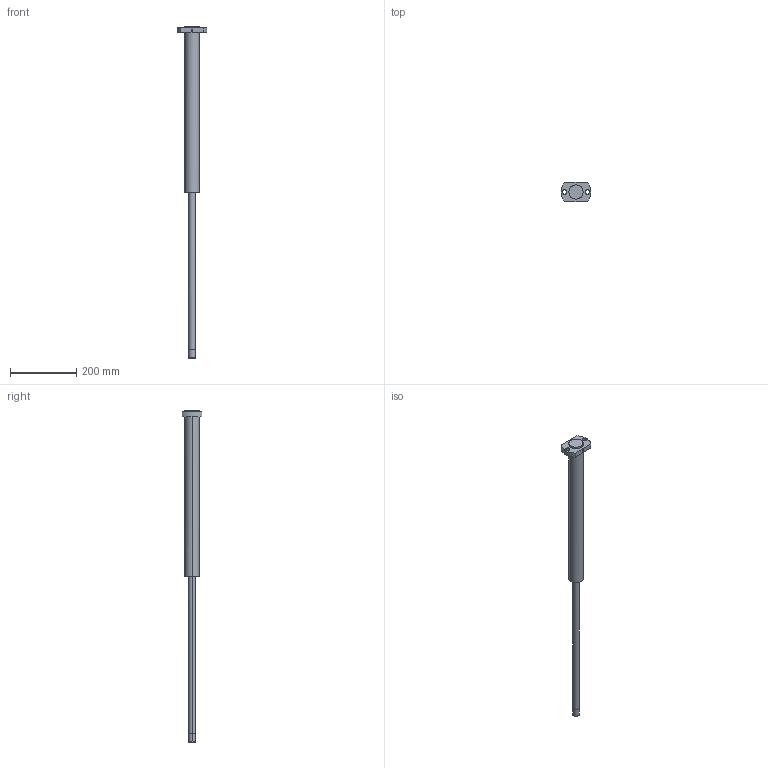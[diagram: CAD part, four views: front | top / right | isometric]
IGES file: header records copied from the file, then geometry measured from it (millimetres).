
Global section: file name: E:\UnigraphicsGraphicData\MISUMI_PRESS-PARTS\IGES\3d_papzu20-500-500-480-500_01720_r00.igs; native system: NX V5.0; preprocessor: UGS NX IGES V5.0; author: MISUMI; date: 20110105.162231; units: millimetre
Bounding box: 90 x 60 x 1000 mm (x, y, z)
Surface area: 118273.6 mm2 (no closed solid volume)
Topology: 0 solids, 0 shells, 32 faces, 292 edges, 292 vertices
Faces by surface type: bspline 32
